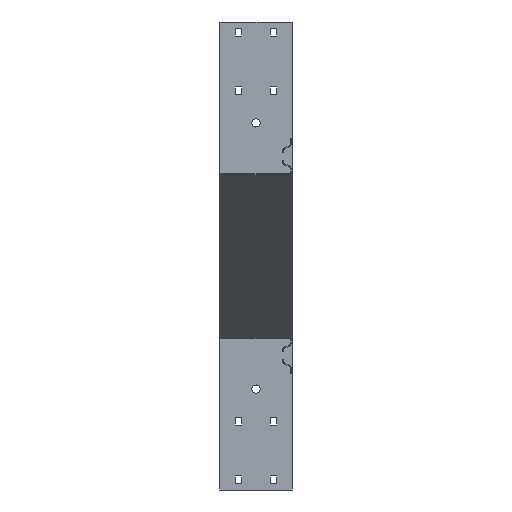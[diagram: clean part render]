
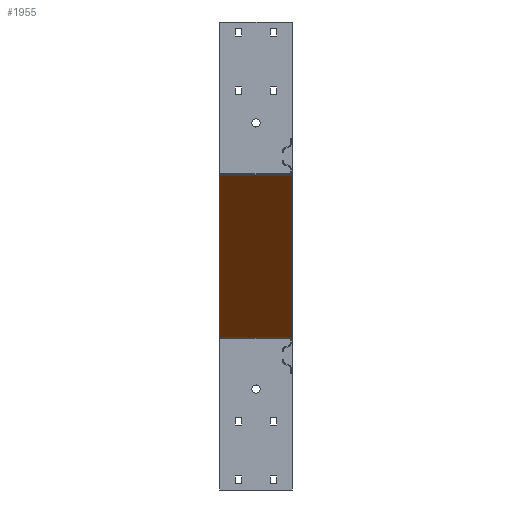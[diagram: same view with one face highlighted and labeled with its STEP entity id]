
A CAD part, left-side view. The second image highlights one B-rep face of the part: STEP entity #1955.
In plain terms, the highlighted planar face has unit normal (-0.598, 0, -0.801) as drawn and (0.598, 0, -0.801) by its records, which use the part's own axes.
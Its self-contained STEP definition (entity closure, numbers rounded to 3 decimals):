
#328 = VERTEX_POINT ( 'NONE', #9998 ) ;
#700 = CARTESIAN_POINT ( 'NONE',  ( 77.603, 0., -280.553 ) ) ;
#864 = CARTESIAN_POINT ( 'NONE',  ( 450.594, 0., -2.052 ) ) ;
#908 = DIRECTION ( 'NONE',  ( -0.801, 0., -0.598 ) ) ;
#932 = CARTESIAN_POINT ( 'NONE',  ( 77.603, 0., -280.553 ) ) ;
#1289 = CARTESIAN_POINT ( 'NONE',  ( 451.197, 124., -1.603 ) ) ;
#1315 = VECTOR ( 'NONE', #8622, 1000. ) ;
#1450 = EDGE_LOOP ( 'NONE', ( #7564, #3821, #9796, #2409 ) ) ;
#1557 = LINE ( 'NONE', #9923, #8794 ) ;
#1670 = VERTEX_POINT ( 'NONE', #5656 ) ;
#1955 = ADVANCED_FACE ( 'NONE', ( #9078 ), #2104, .F. ) ;
#2104 = PLANE ( 'NONE',  #3414 ) ;
#2409 = ORIENTED_EDGE ( 'NONE', *, *, #2898, .F. ) ;
#2767 = VECTOR ( 'NONE', #5254, 1000. ) ;
#2898 = EDGE_CURVE ( 'NONE', #7804, #1670, #7795, .T. ) ;
#2949 = DIRECTION ( 'NONE',  ( -0.801, 0., -0.598 ) ) ;
#3056 = VECTOR ( 'NONE', #908, 1000. ) ;
#3414 = AXIS2_PLACEMENT_3D ( 'NONE', #1289, #6726, #9844 ) ;
#3670 = EDGE_CURVE ( 'NONE', #9344, #328, #9297, .T. ) ;
#3821 = ORIENTED_EDGE ( 'NONE', *, *, #3670, .T. ) ;
#4601 = CARTESIAN_POINT ( 'NONE',  ( 450.594, 0., -2.052 ) ) ;
#5254 = DIRECTION ( 'NONE',  ( 0., 1., 0. ) ) ;
#5656 = CARTESIAN_POINT ( 'NONE',  ( 450.594, 124., -2.052 ) ) ;
#6047 = EDGE_CURVE ( 'NONE', #7804, #9344, #7111, .T. ) ;
#6726 = DIRECTION ( 'NONE',  ( -0.598, 0., 0.801 ) ) ;
#7111 = LINE ( 'NONE', #9411, #3056 ) ;
#7564 = ORIENTED_EDGE ( 'NONE', *, *, #6047, .T. ) ;
#7795 = LINE ( 'NONE', #4601, #2767 ) ;
#7804 = VERTEX_POINT ( 'NONE', #864 ) ;
#8622 = DIRECTION ( 'NONE',  ( 0., 1., 0. ) ) ;
#8794 = VECTOR ( 'NONE', #2949, 1000. ) ;
#8813 = EDGE_CURVE ( 'NONE', #1670, #328, #1557, .T. ) ;
#9078 = FACE_OUTER_BOUND ( 'NONE', #1450, .T. ) ;
#9297 = LINE ( 'NONE', #700, #1315 ) ;
#9344 = VERTEX_POINT ( 'NONE', #932 ) ;
#9411 = CARTESIAN_POINT ( 'NONE',  ( 451.197, 0., -1.603 ) ) ;
#9796 = ORIENTED_EDGE ( 'NONE', *, *, #8813, .F. ) ;
#9844 = DIRECTION ( 'NONE',  ( 0.801, 0., 0.598 ) ) ;
#9923 = CARTESIAN_POINT ( 'NONE',  ( 451.197, 124., -1.603 ) ) ;
#9998 = CARTESIAN_POINT ( 'NONE',  ( 77.603, 124., -280.553 ) ) ;
